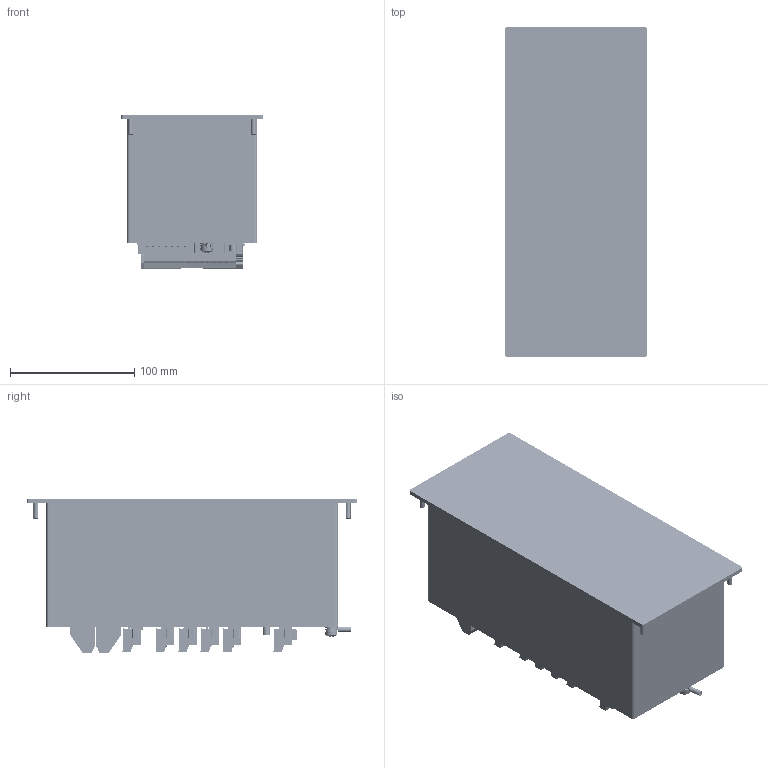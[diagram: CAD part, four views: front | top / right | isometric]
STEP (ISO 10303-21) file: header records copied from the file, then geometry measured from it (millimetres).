
FILE_DESCRIPTION(/* description */ (''),/* implementation_level */ '2;1');
FILE_NAME(/* name */ 'D:\WorkIMT\Project IMT\АЛТЕЙ 01\Корпус\Al v3\Сайт\Altey-01.stp',/* time_stamp */ '2022-08-10T16:59:37+03:00',/* author */ ('Иван'),/* organization */ (''),/* preprocessor_version */ 'ST-DEVELOPER v17.2',/* originating_system */ 'Autodesk Inventor 2019',/* authorisation */ '');
FILE_SCHEMA (('AUTOMOTIVE_DESIGN { 1 0 10303 214 3 1 1 }'));
Products named in the file (34): МТ.АЛТЕЙ.01.АЛ.
07.СБ; МТ.АЛТЕЙ-01.TN4.
ХХ.ХХ.ЭС; MT_ALTEY-01_TN4_v1.sat; МТ.АЛТЕЙ-01.PSU.
ХХ.ХХ.ЭС; MT_ALTEY-01_PSU_v1.sat; МТ.АЛТЕЙ-01.DO7.
ХХ.ХХ.ЭС; МТ.АЛТЕЙ-01.DO7.
ХХ.ХХ.ЭС_1; МТ.АЛТЕЙ-01.DO6.
ХХ.ХХ.ЭС; MT_ALTEY-01_DO6_v1.sat; МТ.АЛТЕЙ-01.DI8-
WRUSH.ХХ.ХХ.ЭС; MT_ALTEY-01_DI8_v1.sat; МТ.АЛТЕЙ-01.DI7-
WRUSH.ХХ.ХХ.ЭС; МТ.АЛТЕЙ-01.DI7-
WRUSH.ХХ.ХХ.ЭС_1; 2EDGKCM-5.08-14P-14-00AH; 2EDGKCM-5.08-08P-14-00AH; HFBR-4505Z; DGV4-01P-11-00AH; 15EDGKM-3.5-04P-14-00AH; 2EDGKCM-5.08-07P-14-00AH; МТ.АЛТЕЙ.01.СБ.
ОБ-АЛ.ПЛ.ХХ; МТ.АЛТЕЙ.01.Д.
ОБ-АЛ.ПЛ.07; FHS-M4-16; МТ.АЛТЕЙ.01.Д.
ОБ-АЛ.КЗ.ХХ; DIN 7982 - ST4,8х22-С-TX; HFBR-4522Z; МТ.АЛТЕЙ.01.КЛАВИАТУРА.
РОС.ХХ; UFL/SMA Female, 150 мм; Nuts etc; Nuts etc_1; НКИ 2.5-4; DIN 127 - A 5; DIN 7985 (H) - M5x16-H; DIN 125 - A 5,3; МТ.АЛТЕЙ.01.Д.
ОБ-АЛ.КОРПУС.ХХ
Assembly tree (61 placements, depth 3):
  МТ.АЛТЕЙ.01.АЛ.
07.СБ
    МТ.АЛТЕЙ-01.TN4.
ХХ.ХХ.ЭС
      MT_ALTEY-01_TN4_v1.sat
    МТ.АЛТЕЙ-01.PSU.
ХХ.ХХ.ЭС
      MT_ALTEY-01_PSU_v1.sat
    МТ.АЛТЕЙ-01.DO7.
ХХ.ХХ.ЭС
      МТ.АЛТЕЙ-01.DO7.
ХХ.ХХ.ЭС_1
    МТ.АЛТЕЙ-01.DO6.
ХХ.ХХ.ЭС
      MT_ALTEY-01_DO6_v1.sat
    МТ.АЛТЕЙ-01.DI8-
WRUSH.ХХ.ХХ.ЭС
      MT_ALTEY-01_DI8_v1.sat
    МТ.АЛТЕЙ-01.DI7-
WRUSH.ХХ.ХХ.ЭС
      МТ.АЛТЕЙ-01.DI7-
WRUSH.ХХ.ХХ.ЭС_1
    2EDGKCM-5.08-14P-14-00AH  x4
    2EDGKCM-5.08-08P-14-00AH
    HFBR-4505Z  x6
    DGV4-01P-11-00AH  x8
    15EDGKM-3.5-04P-14-00AH
    2EDGKCM-5.08-07P-14-00AH
    МТ.АЛТЕЙ.01.СБ.
ОБ-АЛ.ПЛ.ХХ
      МТ.АЛТЕЙ.01.Д.
ОБ-АЛ.ПЛ.07
      FHS-M4-16  x4
    МТ.АЛТЕЙ.01.Д.
ОБ-АЛ.КЗ.ХХ
    DIN 7982 - ST4,8х22-С-TX  x4
    HFBR-4522Z  x6
    МТ.АЛТЕЙ.01.КЛАВИАТУРА.
РОС.ХХ
    UFL/SMA Female, 150 мм
    Nuts etc
    Nuts etc_1
    НКИ 2.5-4
    DIN 127 - A 5
    DIN 7985 (H) - M5x16-H
    DIN 125 - A 5,3  x2
    МТ.АЛТЕЙ.01.Д.
ОБ-АЛ.КОРПУС.ХХ  x2
Bounding box: 114 x 266 x 124.52 mm (x, y, z)
Volume: 496640.5 mm3; surface area: 419456.3 mm2
Topology: 57 solids, 78 shells, 12918 faces, 31397 edges, 19901 vertices
Faces by surface type: plane 10476, cylinder 1802, cone 284, sphere 146, torus 117, bspline 93
Full cylindrical faces by diameter (mm): 0.434 x6, 0.457 x7, 0.8 x4, 1 x1, 1.1 x2, 1.2 x4, 1.25 x4, 1.4 x135, 1.6 x6, 1.72 x1, 1.75 x12, 1.8 x16, 2.05 x46, 2.4 x14, 2.5 x37, 2.8 x128, 2.9 x4, 3.3 x7, 3.4 x1, 3.6 x7, 3.7 x64, 3.783 x64, 3.8 x12, 3.85 x4, 3.9 x12, 4 x25, 4.1 x64, 4.3 x1, 4.5 x2, 4.6 x1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
Entity records: 328557 total; most frequent: CARTESIAN_POINT 88757, DIRECTION 47167, ORIENTED_EDGE 47128, EDGE_CURVE 23564, LINE 18211, VECTOR 18211, VERTEX_POINT 14700, AXIS2_PLACEMENT_3D 14478
